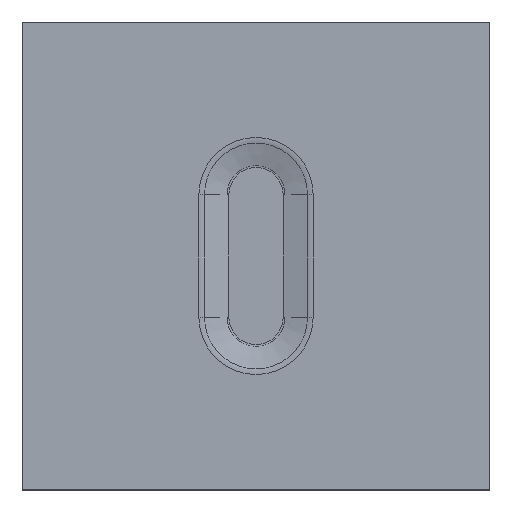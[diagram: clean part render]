
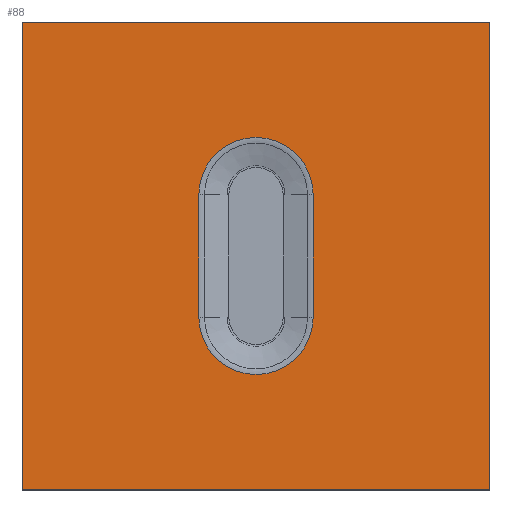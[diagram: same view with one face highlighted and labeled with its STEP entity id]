
A CAD part, top view. The second image highlights one B-rep face of the part: STEP entity #88.
In plain terms, the highlighted planar face has unit normal (0, 0, 1).
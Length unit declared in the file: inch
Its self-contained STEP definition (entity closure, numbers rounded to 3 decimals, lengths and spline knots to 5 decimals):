
#88=ADVANCED_FACE('',(#134,#135),#136,.F.);
#134=FACE_OUTER_BOUND('',#200,.T.);
#135=FACE_BOUND('',#201,.T.);
#136=PLANE('',#202);
#200=EDGE_LOOP('',(#331,#332,#333,#334));
#201=EDGE_LOOP('',(#335,#336,#337,#338));
#202=AXIS2_PLACEMENT_3D('',#339,#340,#341);
#331=ORIENTED_EDGE('',*,*,#500,.T.);
#332=ORIENTED_EDGE('',*,*,#501,.T.);
#333=ORIENTED_EDGE('',*,*,#502,.T.);
#334=ORIENTED_EDGE('',*,*,#503,.T.);
#335=ORIENTED_EDGE('',*,*,#480,.F.);
#336=ORIENTED_EDGE('',*,*,#488,.F.);
#337=ORIENTED_EDGE('',*,*,#484,.F.);
#338=ORIENTED_EDGE('',*,*,#482,.F.);
#339=CARTESIAN_POINT('',(-2.09561,0.42975,0.00627));
#340=DIRECTION('',(0.,0.0,-1.0));
#341=DIRECTION('',(0.0,1.0,0.0));
#480=EDGE_CURVE('',#553,#555,#556,.T.);
#482=EDGE_CURVE('',#555,#558,#559,.T.);
#484=EDGE_CURVE('',#558,#561,#562,.T.);
#488=EDGE_CURVE('',#561,#553,#567,.T.);
#500=EDGE_CURVE('',#584,#585,#586,.T.);
#501=EDGE_CURVE('',#585,#587,#588,.T.);
#502=EDGE_CURVE('',#587,#589,#590,.T.);
#503=EDGE_CURVE('',#589,#584,#591,.T.);
#553=VERTEX_POINT('',#666);
#555=VERTEX_POINT('',#668);
#556=CIRCLE('',#669,0.24417);
#558=VERTEX_POINT('',#671);
#559=LINE('',#672,#673);
#561=VERTEX_POINT('',#675);
#562=CIRCLE('',#676,0.24417);
#567=LINE('',#682,#683);
#584=VERTEX_POINT('',#704);
#585=VERTEX_POINT('',#705);
#586=LINE('',#706,#707);
#587=VERTEX_POINT('',#708);
#588=LINE('',#709,#710);
#589=VERTEX_POINT('',#711);
#590=LINE('',#712,#713);
#591=LINE('',#714,#715);
#666=CARTESIAN_POINT('',(-2.33974,0.16725,0.00627));
#668=CARTESIAN_POINT('',(-1.85139,0.16725,0.00627));
#669=AXIS2_PLACEMENT_3D('',#806,#807,#808);
#671=CARTESIAN_POINT('',(-1.85139,0.69225,0.00627));
#672=CARTESIAN_POINT('',(-1.85139,0.42975,0.00627));
#673=VECTOR('',#812,1.0);
#675=CARTESIAN_POINT('',(-2.33974,0.69225,0.00627));
#676=AXIS2_PLACEMENT_3D('',#816,#817,#818);
#682=CARTESIAN_POINT('',(-2.33974,0.42975,0.00627));
#683=VECTOR('',#826,1.0);
#704=CARTESIAN_POINT('',(-1.09561,1.42975,0.00627));
#705=CARTESIAN_POINT('',(-3.09561,1.42975,0.00627));
#706=CARTESIAN_POINT('',(-2.09561,1.42975,0.00627));
#707=VECTOR('',#852,1.0);
#708=CARTESIAN_POINT('',(-3.09561,-0.57025,0.00627));
#709=CARTESIAN_POINT('',(-3.09561,0.42975,0.00627));
#710=VECTOR('',#853,1.0);
#711=CARTESIAN_POINT('',(-1.09561,-0.57025,0.00627));
#712=CARTESIAN_POINT('',(-2.09561,-0.57025,0.00627));
#713=VECTOR('',#854,1.0);
#714=CARTESIAN_POINT('',(-1.09561,0.42975,0.00627));
#715=VECTOR('',#855,1.0);
#806=CARTESIAN_POINT('',(-2.09556,0.16725,0.00627));
#807=DIRECTION('',(0.,0.0,1.0));
#808=DIRECTION('',(0.0,-1.0,-0.0));
#812=DIRECTION('',(0.0,1.0,0.0));
#816=CARTESIAN_POINT('',(-2.09556,0.69225,0.00627));
#817=DIRECTION('',(0.,0.0,1.0));
#818=DIRECTION('',(0.0,-1.0,-0.0));
#826=DIRECTION('',(0.0,-1.0,-0.0));
#852=DIRECTION('',(-1.0,0.0,0.));
#853=DIRECTION('',(0.0,-1.0,-0.0));
#854=DIRECTION('',(1.0,0.0,0.));
#855=DIRECTION('',(0.0,1.0,0.0));
